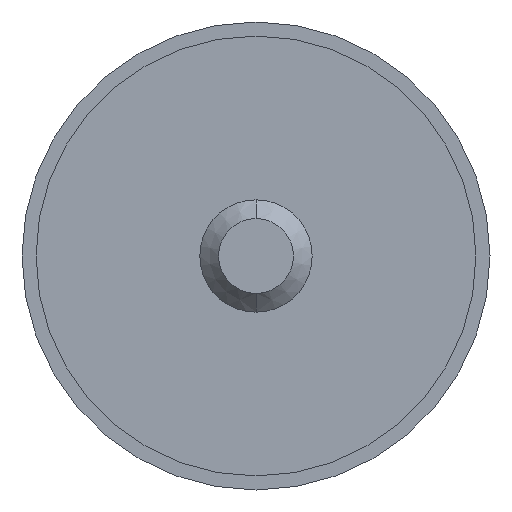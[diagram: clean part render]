
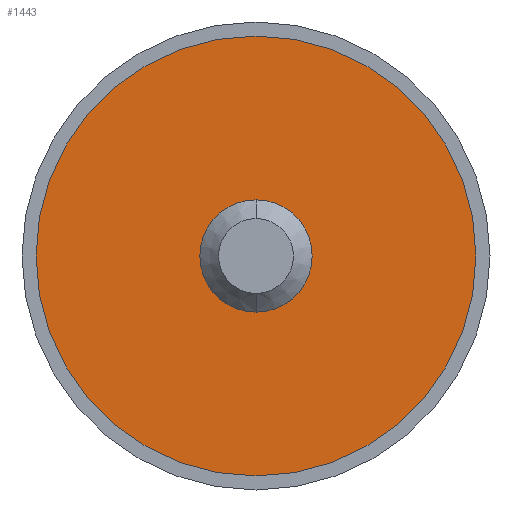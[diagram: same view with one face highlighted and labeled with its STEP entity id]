
A CAD part, front view. The second image highlights one B-rep face of the part: STEP entity #1443.
In plain terms, the highlighted planar face has unit normal (0, -1, 0).
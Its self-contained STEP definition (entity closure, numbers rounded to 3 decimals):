
#144 = DIRECTION ( 'NONE',  ( 0., 0., 1. ) ) ;
#237 = CARTESIAN_POINT ( 'NONE',  ( 0., -1.5, -3. ) ) ;
#267 = CARTESIAN_POINT ( 'NONE',  ( 0., -1.5, -11.75 ) ) ;
#336 = CIRCLE ( 'NONE', #2811, 11.75 ) ;
#428 = PLANE ( 'NONE',  #712 ) ;
#467 = DIRECTION ( 'NONE',  ( 0., 1., 0. ) ) ;
#608 = DIRECTION ( 'NONE',  ( 0., -1., 0. ) ) ;
#712 = AXIS2_PLACEMENT_3D ( 'NONE', #3795, #2792, #4086 ) ;
#717 = CARTESIAN_POINT ( 'NONE',  ( 0., -1.5, 0. ) ) ;
#998 = EDGE_CURVE ( 'NONE', #3089, #1691, #3654, .T. ) ;
#1068 = AXIS2_PLACEMENT_3D ( 'NONE', #3961, #608, #2601 ) ;
#1143 = DIRECTION ( 'NONE',  ( 0., 1., 0. ) ) ;
#1226 = CARTESIAN_POINT ( 'NONE',  ( 0., -1.5, 0. ) ) ;
#1333 = EDGE_LOOP ( 'NONE', ( #2775, #3668 ) ) ;
#1416 = CIRCLE ( 'NONE', #1068, 3. ) ;
#1443 = ADVANCED_FACE ( 'NONE', ( #3339, #2550 ), #428, .F. ) ;
#1691 = VERTEX_POINT ( 'NONE', #237 ) ;
#1775 = ORIENTED_EDGE ( 'NONE', *, *, #2709, .F. ) ;
#2191 = CARTESIAN_POINT ( 'NONE',  ( 0., -1.5, 11.75 ) ) ;
#2201 = DIRECTION ( 'NONE',  ( 0., 0., -1. ) ) ;
#2324 = EDGE_LOOP ( 'NONE', ( #3746, #1775 ) ) ;
#2550 = FACE_OUTER_BOUND ( 'NONE', #2324, .T. ) ;
#2601 = DIRECTION ( 'NONE',  ( 0., 0., -1. ) ) ;
#2709 = EDGE_CURVE ( 'NONE', #3006, #2932, #4199, .T. ) ;
#2775 = ORIENTED_EDGE ( 'NONE', *, *, #998, .F. ) ;
#2792 = DIRECTION ( 'NONE',  ( 0., 1., 0. ) ) ;
#2811 = AXIS2_PLACEMENT_3D ( 'NONE', #4134, #1143, #144 ) ;
#2932 = VERTEX_POINT ( 'NONE', #2191 ) ;
#3006 = VERTEX_POINT ( 'NONE', #267 ) ;
#3029 = AXIS2_PLACEMENT_3D ( 'NONE', #1226, #3920, #2201 ) ;
#3037 = AXIS2_PLACEMENT_3D ( 'NONE', #717, #467, #3132 ) ;
#3089 = VERTEX_POINT ( 'NONE', #4087 ) ;
#3132 = DIRECTION ( 'NONE',  ( 0., 0., 1. ) ) ;
#3254 = EDGE_CURVE ( 'NONE', #2932, #3006, #336, .T. ) ;
#3339 = FACE_BOUND ( 'NONE', #1333, .T. ) ;
#3469 = EDGE_CURVE ( 'NONE', #1691, #3089, #1416, .T. ) ;
#3654 = CIRCLE ( 'NONE', #3029, 3. ) ;
#3668 = ORIENTED_EDGE ( 'NONE', *, *, #3469, .F. ) ;
#3746 = ORIENTED_EDGE ( 'NONE', *, *, #3254, .F. ) ;
#3795 = CARTESIAN_POINT ( 'NONE',  ( 0., -1.5, 0. ) ) ;
#3920 = DIRECTION ( 'NONE',  ( 0., -1., 0. ) ) ;
#3961 = CARTESIAN_POINT ( 'NONE',  ( 0., -1.5, 0. ) ) ;
#4086 = DIRECTION ( 'NONE',  ( 0., 0., 1. ) ) ;
#4087 = CARTESIAN_POINT ( 'NONE',  ( 0., -1.5, 3. ) ) ;
#4134 = CARTESIAN_POINT ( 'NONE',  ( 0., -1.5, 0. ) ) ;
#4199 = CIRCLE ( 'NONE', #3037, 11.75 ) ;
